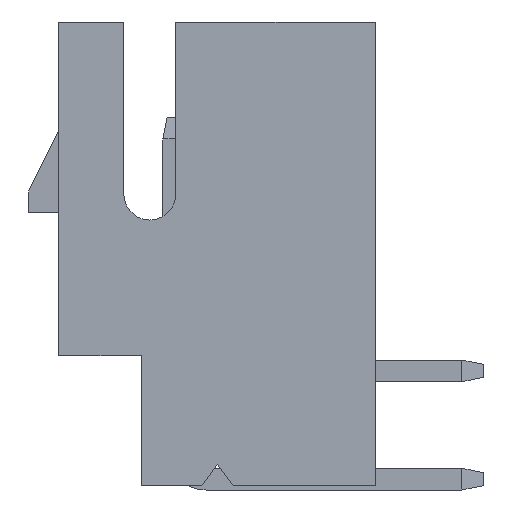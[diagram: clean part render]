
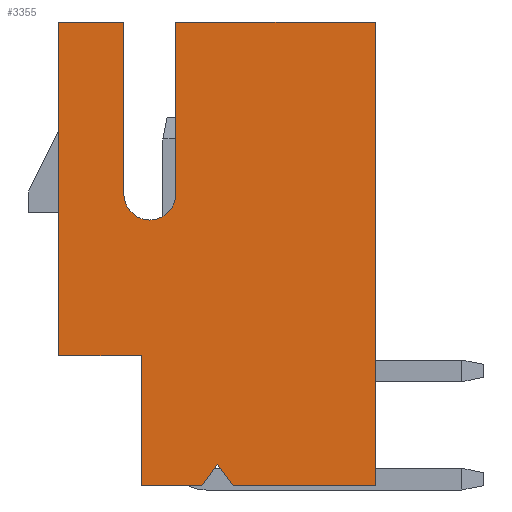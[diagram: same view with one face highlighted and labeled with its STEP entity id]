
A CAD part, left-side view. The second image highlights one B-rep face of the part: STEP entity #3355.
In plain terms, the highlighted planar face has unit normal (-1, 0, 0).
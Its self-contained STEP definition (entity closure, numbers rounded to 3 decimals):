
#2272=CARTESIAN_POINT('Vertex',(-8.725,5.4,0.)) ;
#2275=CARTESIAN_POINT('Line Origine',(-8.725,6.35,0.)) ;
#2279=CARTESIAN_POINT('Vertex',(-8.725,7.3,0.)) ;
#3253=CARTESIAN_POINT('Axis2P3D Location',(-8.725,0.,0.)) ;
#3258=CARTESIAN_POINT('Line Origine',(-8.725,2.3,7.7)) ;
#3262=CARTESIAN_POINT('Vertex',(-8.725,4.6,7.7)) ;
#3264=CARTESIAN_POINT('Vertex',(-8.725,0.,7.7)) ;
#3267=CARTESIAN_POINT('Line Origine',(-8.725,4.6,5.715)) ;
#3271=CARTESIAN_POINT('Vertex',(-8.725,4.6,3.73)) ;
#3274=CARTESIAN_POINT('Axis2P3D Location',(-8.725,5.2,3.73)) ;
#3278=CARTESIAN_POINT('Vertex',(-8.725,5.8,3.73)) ;
#3281=CARTESIAN_POINT('Line Origine',(-8.725,5.8,5.715)) ;
#3285=CARTESIAN_POINT('Vertex',(-8.725,5.8,7.7)) ;
#3288=CARTESIAN_POINT('Line Origine',(-8.725,6.55,7.7)) ;
#3292=CARTESIAN_POINT('Vertex',(-8.725,7.3,7.7)) ;
#3295=CARTESIAN_POINT('Line Origine',(-8.725,7.3,3.85)) ;
#3300=CARTESIAN_POINT('Line Origine',(-8.725,5.4,-1.5)) ;
#3304=CARTESIAN_POINT('Vertex',(-8.725,5.4,-3.)) ;
#3307=CARTESIAN_POINT('Line Origine',(-8.725,4.7,-3.)) ;
#3311=CARTESIAN_POINT('Vertex',(-8.725,4.,-3.)) ;
#3314=CARTESIAN_POINT('Line Origine',(-8.725,3.82,-2.75)) ;
#3318=CARTESIAN_POINT('Vertex',(-8.725,3.64,-2.5)) ;
#3321=CARTESIAN_POINT('Line Origine',(-8.725,3.46,-2.75)) ;
#3325=CARTESIAN_POINT('Vertex',(-8.725,3.28,-3.)) ;
#3328=CARTESIAN_POINT('Line Origine',(-8.725,1.64,-3.)) ;
#3332=CARTESIAN_POINT('Vertex',(-8.725,0.,-3.)) ;
#3335=CARTESIAN_POINT('Line Origine',(-8.725,0.,2.35)) ;
#2276=DIRECTION('Vector Direction',(0.,1.,0.)) ;
#3254=DIRECTION('Axis2P3D Direction',(1.,0.,0.)) ;
#3255=DIRECTION('Axis2P3D XDirection',(0.,1.,0.)) ;
#3259=DIRECTION('Vector Direction',(0.,-1.,0.)) ;
#3268=DIRECTION('Vector Direction',(0.,0.,1.)) ;
#3275=DIRECTION('Axis2P3D Direction',(1.,0.,0.)) ;
#3282=DIRECTION('Vector Direction',(0.,0.,-1.)) ;
#3289=DIRECTION('Vector Direction',(0.,-1.,0.)) ;
#3296=DIRECTION('Vector Direction',(0.,0.,1.)) ;
#3301=DIRECTION('Vector Direction',(0.,0.,-1.)) ;
#3308=DIRECTION('Vector Direction',(0.,-1.,0.)) ;
#3315=DIRECTION('Vector Direction',(0.,-0.584,0.812)) ;
#3322=DIRECTION('Vector Direction',(0.,-0.584,-0.812)) ;
#3329=DIRECTION('Vector Direction',(0.,-1.,0.)) ;
#3336=DIRECTION('Vector Direction',(0.,0.,1.)) ;
#3256=AXIS2_PLACEMENT_3D('Plane Axis2P3D',#3253,#3254,#3255) ;
#3276=AXIS2_PLACEMENT_3D('Circle Axis2P3D',#3274,#3275,$) ;
#3341=ORIENTED_EDGE('',*,*,#3266,.F.) ;
#3342=ORIENTED_EDGE('',*,*,#3273,.F.) ;
#3343=ORIENTED_EDGE('',*,*,#3280,.F.) ;
#3344=ORIENTED_EDGE('',*,*,#3287,.F.) ;
#3345=ORIENTED_EDGE('',*,*,#3294,.F.) ;
#3346=ORIENTED_EDGE('',*,*,#3299,.F.) ;
#3347=ORIENTED_EDGE('',*,*,#2281,.F.) ;
#3348=ORIENTED_EDGE('',*,*,#3306,.F.) ;
#3349=ORIENTED_EDGE('',*,*,#3313,.F.) ;
#3350=ORIENTED_EDGE('',*,*,#3320,.F.) ;
#3351=ORIENTED_EDGE('',*,*,#3327,.F.) ;
#3352=ORIENTED_EDGE('',*,*,#3334,.F.) ;
#3353=ORIENTED_EDGE('',*,*,#3339,.F.) ;
#2277=VECTOR('Line Direction',#2276,1.) ;
#3260=VECTOR('Line Direction',#3259,1.) ;
#3269=VECTOR('Line Direction',#3268,1.) ;
#3283=VECTOR('Line Direction',#3282,1.) ;
#3290=VECTOR('Line Direction',#3289,1.) ;
#3297=VECTOR('Line Direction',#3296,1.) ;
#3302=VECTOR('Line Direction',#3301,1.) ;
#3309=VECTOR('Line Direction',#3308,1.) ;
#3316=VECTOR('Line Direction',#3315,1.) ;
#3323=VECTOR('Line Direction',#3322,1.) ;
#3330=VECTOR('Line Direction',#3329,1.) ;
#3337=VECTOR('Line Direction',#3336,1.) ;
#3355=ADVANCED_FACE('\X2\96F64EF651E04F554F53\X0\',(#3354),#3257,.F.) ;
#3277=CIRCLE('generated circle',#3276,0.6) ;
#2281=EDGE_CURVE('',#2273,#2280,#2278,.T.) ;
#3266=EDGE_CURVE('',#3263,#3265,#3261,.T.) ;
#3273=EDGE_CURVE('',#3272,#3263,#3270,.T.) ;
#3280=EDGE_CURVE('',#3279,#3272,#3277,.F.) ;
#3287=EDGE_CURVE('',#3286,#3279,#3284,.T.) ;
#3294=EDGE_CURVE('',#3293,#3286,#3291,.T.) ;
#3299=EDGE_CURVE('',#2280,#3293,#3298,.T.) ;
#3306=EDGE_CURVE('',#3305,#2273,#3303,.F.) ;
#3313=EDGE_CURVE('',#3312,#3305,#3310,.F.) ;
#3320=EDGE_CURVE('',#3319,#3312,#3317,.F.) ;
#3327=EDGE_CURVE('',#3326,#3319,#3324,.F.) ;
#3334=EDGE_CURVE('',#3333,#3326,#3331,.F.) ;
#3339=EDGE_CURVE('',#3265,#3333,#3338,.F.) ;
#3340=EDGE_LOOP('',(#3341,#3342,#3343,#3344,#3345,#3346,#3347,#3348,#3349,#3350,#3351,#3352,#3353)) ;
#3354=FACE_OUTER_BOUND('',#3340,.T.) ;
#2278=LINE('Line',#2275,#2277) ;
#3261=LINE('Line',#3258,#3260) ;
#3270=LINE('Line',#3267,#3269) ;
#3284=LINE('Line',#3281,#3283) ;
#3291=LINE('Line',#3288,#3290) ;
#3298=LINE('Line',#3295,#3297) ;
#3303=LINE('Line',#3300,#3302) ;
#3310=LINE('Line',#3307,#3309) ;
#3317=LINE('Line',#3314,#3316) ;
#3324=LINE('Line',#3321,#3323) ;
#3331=LINE('Line',#3328,#3330) ;
#3338=LINE('Line',#3335,#3337) ;
#3257=PLANE('Plane',#3256) ;
#2273=VERTEX_POINT('',#2272) ;
#2280=VERTEX_POINT('',#2279) ;
#3263=VERTEX_POINT('',#3262) ;
#3265=VERTEX_POINT('',#3264) ;
#3272=VERTEX_POINT('',#3271) ;
#3279=VERTEX_POINT('',#3278) ;
#3286=VERTEX_POINT('',#3285) ;
#3293=VERTEX_POINT('',#3292) ;
#3305=VERTEX_POINT('',#3304) ;
#3312=VERTEX_POINT('',#3311) ;
#3319=VERTEX_POINT('',#3318) ;
#3326=VERTEX_POINT('',#3325) ;
#3333=VERTEX_POINT('',#3332) ;
